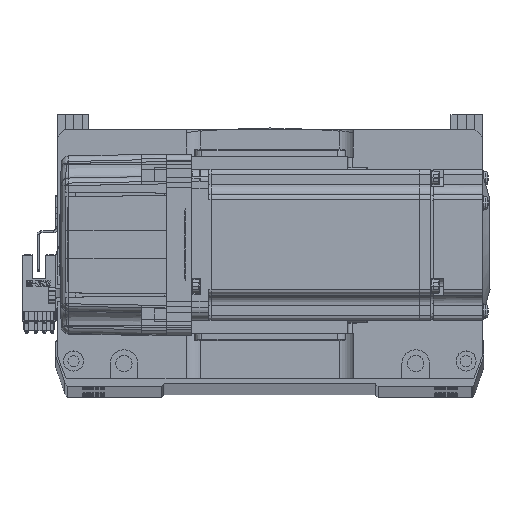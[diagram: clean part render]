
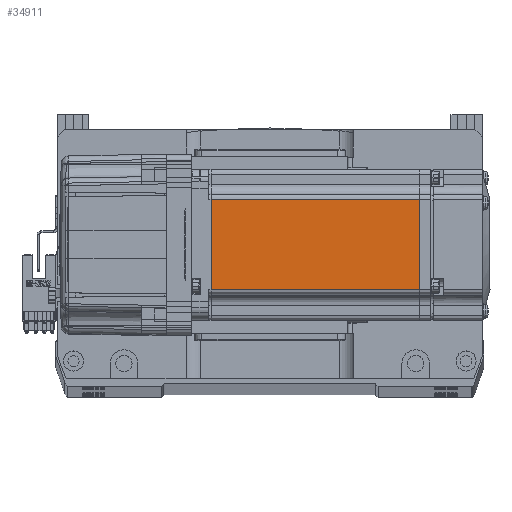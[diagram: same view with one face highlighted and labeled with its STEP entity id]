
A CAD part, top view. The second image highlights one B-rep face of the part: STEP entity #34911.
In plain terms, the highlighted planar face has unit normal (0, 0, 1) as drawn and (0, -1, 0) by its records, which use the part's own axes.
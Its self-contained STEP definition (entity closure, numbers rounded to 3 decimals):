
#4605 = AXIS2_PLACEMENT_3D ( 'NONE', #58697, #26693, #20879 ) ;
#5371 = VERTEX_POINT ( 'NONE', #37448 ) ;
#7272 = LINE ( 'NONE', #18902, #48287 ) ;
#8086 = CARTESIAN_POINT ( 'NONE',  ( -6.5, -30., 18. ) ) ;
#8678 = ORIENTED_EDGE ( 'NONE', *, *, #11764, .T. ) ;
#10910 = EDGE_LOOP ( 'NONE', ( #40895, #36630, #17357, #8678 ) ) ;
#11393 = VERTEX_POINT ( 'NONE', #29629 ) ;
#11764 = EDGE_CURVE ( 'NONE', #5371, #49206, #32257, .T. ) ;
#13994 = DIRECTION ( 'NONE',  ( 0., 0., -1. ) ) ;
#15534 = VERTEX_POINT ( 'NONE', #43066 ) ;
#17270 = VECTOR ( 'NONE', #69323, 1000. ) ;
#17357 = ORIENTED_EDGE ( 'NONE', *, *, #55259, .T. ) ;
#18380 = DIRECTION ( 'NONE',  ( -1., 0., 0. ) ) ;
#18902 = CARTESIAN_POINT ( 'NONE',  ( -7.75, -30., -25. ) ) ;
#20879 = DIRECTION ( 'NONE',  ( 0., 0., -1. ) ) ;
#26693 = DIRECTION ( 'NONE',  ( 0., -1., 0. ) ) ;
#28378 = LINE ( 'NONE', #40874, #69406 ) ;
#29629 = CARTESIAN_POINT ( 'NONE',  ( -90.45, -30., 18. ) ) ;
#32257 = LINE ( 'NONE', #52480, #17270 ) ;
#32514 = FACE_OUTER_BOUND ( 'NONE', #10910, .T. ) ;
#34911 = ADVANCED_FACE ( 'NONE', ( #32514 ), #68792, .T. ) ;
#36630 = ORIENTED_EDGE ( 'NONE', *, *, #43100, .T. ) ;
#37448 = CARTESIAN_POINT ( 'NONE',  ( -90.45, -30., -18. ) ) ;
#37835 = LINE ( 'NONE', #8086, #41196 ) ;
#39942 = DIRECTION ( 'NONE',  ( 0., 0., 1. ) ) ;
#40874 = CARTESIAN_POINT ( 'NONE',  ( -90.45, -30., -25. ) ) ;
#40895 = ORIENTED_EDGE ( 'NONE', *, *, #56596, .T. ) ;
#41196 = VECTOR ( 'NONE', #18380, 1000. ) ;
#42190 = CARTESIAN_POINT ( 'NONE',  ( -7.75, -30., -18. ) ) ;
#43066 = CARTESIAN_POINT ( 'NONE',  ( -7.75, -30., 18. ) ) ;
#43100 = EDGE_CURVE ( 'NONE', #15534, #11393, #37835, .T. ) ;
#48287 = VECTOR ( 'NONE', #39942, 1000. ) ;
#49206 = VERTEX_POINT ( 'NONE', #42190 ) ;
#52480 = CARTESIAN_POINT ( 'NONE',  ( -6.5, -30., -18. ) ) ;
#55259 = EDGE_CURVE ( 'NONE', #11393, #5371, #28378, .T. ) ;
#56596 = EDGE_CURVE ( 'NONE', #49206, #15534, #7272, .T. ) ;
#58697 = CARTESIAN_POINT ( 'NONE',  ( -6.5, -30., -25. ) ) ;
#68792 = PLANE ( 'NONE',  #4605 ) ;
#69323 = DIRECTION ( 'NONE',  ( 1., 0., 0. ) ) ;
#69406 = VECTOR ( 'NONE', #13994, 1000. ) ;
